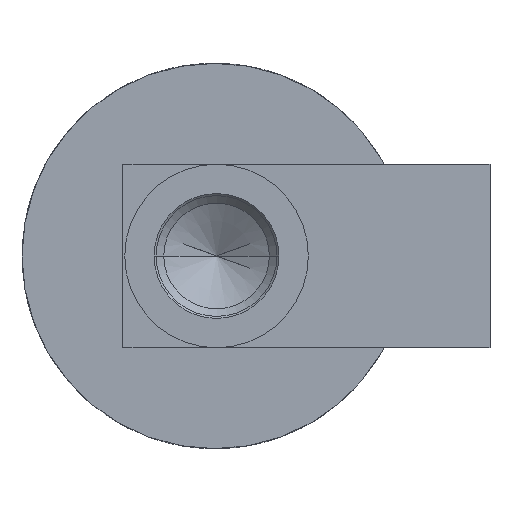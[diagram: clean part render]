
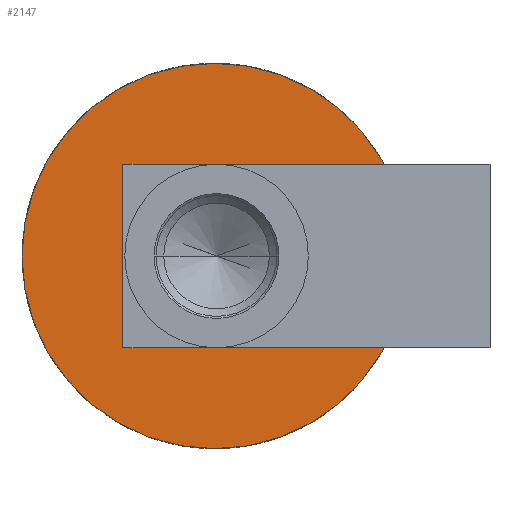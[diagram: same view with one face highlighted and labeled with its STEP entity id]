
A CAD part, left-side view. The second image highlights one B-rep face of the part: STEP entity #2147.
In plain terms, the highlighted planar face has unit normal (-1, 0, 0).
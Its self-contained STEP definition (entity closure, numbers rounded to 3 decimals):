
#464=CARTESIAN_POINT('',(73.,30.,-10.));
#465=DIRECTION('',(1.,0.,0.));
#466=DIRECTION('',(0.,0.,1.));
#467=AXIS2_PLACEMENT_3D('',#464,#465,#466);
#479=CARTESIAN_POINT('',(73.,30.,-10.));
#480=DIRECTION('',(-1.,0.,0.));
#481=DIRECTION('',(0.,0.,1.));
#482=AXIS2_PLACEMENT_3D('',#479,#480,#481);
#494=CARTESIAN_POINT('',(73.,30.,-10.));
#495=DIRECTION('',(1.,0.,0.));
#496=DIRECTION('',(0.,0.,1.));
#497=AXIS2_PLACEMENT_3D('',#494,#495,#496);
#502=CARTESIAN_POINT('',(73.,30.,-10.));
#503=DIRECTION('',(-1.,0.,0.));
#504=DIRECTION('',(0.,0.,1.));
#505=AXIS2_PLACEMENT_3D('',#502,#503,#504);
#1628=CARTESIAN_POINT('',(73.,30.,11.));
#1629=CARTESIAN_POINT('',(73.,30.,-31.));
#1630=VERTEX_POINT('',#1628);
#1631=VERTEX_POINT('',#1629);
#1632=CARTESIAN_POINT('',(73.,30.,-5.));
#1633=CARTESIAN_POINT('',(73.,30.,-15.));
#1634=VERTEX_POINT('',#1632);
#1635=VERTEX_POINT('',#1633);
#2132=CARTESIAN_POINT('',(73.,30.,-10.));
#2133=DIRECTION('',(1.,0.,0.));
#2134=DIRECTION('',(0.,0.,-1.));
#2135=AXIS2_PLACEMENT_3D('',#2132,#2133,#2134);
#2136=PLANE('',#2135);
#2138=ORIENTED_EDGE('',*,*,#2137,.T.);
#2140=ORIENTED_EDGE('',*,*,#2139,.F.);
#2141=EDGE_LOOP('',(#2138,#2140));
#2142=FACE_OUTER_BOUND('',#2141,.F.);
#2143=ORIENTED_EDGE('',*,*,#2126,.T.);
#2144=ORIENTED_EDGE('',*,*,#2112,.F.);
#2145=EDGE_LOOP('',(#2143,#2144));
#2146=FACE_BOUND('',#2145,.F.);
#468=CIRCLE('',#467,5.);
#483=CIRCLE('',#482,5.);
#498=CIRCLE('',#497,21.);
#506=CIRCLE('',#505,21.);
#2112=EDGE_CURVE('',#1634,#1635,#468,.T.);
#2126=EDGE_CURVE('',#1634,#1635,#483,.T.);
#2137=EDGE_CURVE('',#1630,#1631,#498,.T.);
#2139=EDGE_CURVE('',#1630,#1631,#506,.T.);
#2147=ADVANCED_FACE('',(#2142,#2146),#2136,.F.);
